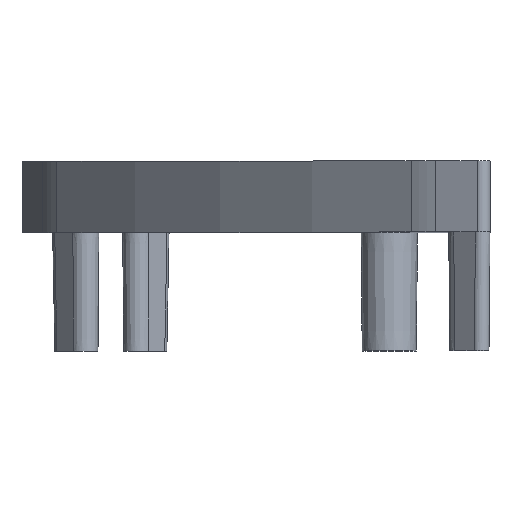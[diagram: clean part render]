
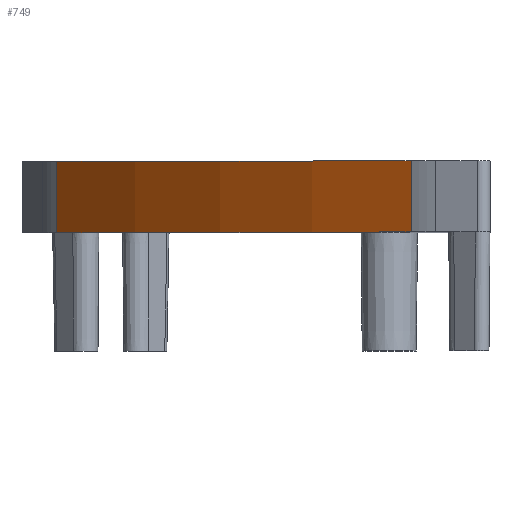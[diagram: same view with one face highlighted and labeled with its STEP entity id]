
A CAD part, top view. The second image highlights one B-rep face of the part: STEP entity #749.
In plain terms, the highlighted cylindrical face has radius 54 mm (diameter 108 mm), a partial arc.
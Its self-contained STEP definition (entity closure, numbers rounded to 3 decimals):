
#35=CIRCLE('',#821,54.);
#39=CIRCLE('',#827,54.);
#99=FACE_OUTER_BOUND('',#143,.T.);
#143=EDGE_LOOP('',(#649,#650,#651,#652));
#210=LINE('',#1258,#280);
#211=LINE('',#1262,#281);
#280=VECTOR('',#1030,2.4);
#281=VECTOR('',#1035,2.4);
#364=VERTEX_POINT('',#1241);
#365=VERTEX_POINT('',#1243);
#370=VERTEX_POINT('',#1256);
#371=VERTEX_POINT('',#1260);
#461=EDGE_CURVE('',#365,#364,#35,.T.);
#469=EDGE_CURVE('',#364,#370,#210,.T.);
#470=EDGE_CURVE('',#371,#370,#39,.T.);
#471=EDGE_CURVE('',#365,#371,#211,.T.);
#649=ORIENTED_EDGE('',*,*,#461,.T.);
#650=ORIENTED_EDGE('',*,*,#469,.T.);
#651=ORIENTED_EDGE('',*,*,#470,.F.);
#652=ORIENTED_EDGE('',*,*,#471,.F.);
#712=CYLINDRICAL_SURFACE('',#826,54.);
#749=ADVANCED_FACE('',(#99),#712,.T.);
#821=AXIS2_PLACEMENT_3D('',#1244,#1016,#1017);
#826=AXIS2_PLACEMENT_3D('',#1259,#1031,#1032);
#827=AXIS2_PLACEMENT_3D('',#1261,#1033,#1034);
#1016=DIRECTION('center_axis',(0.,1.,0.));
#1017=DIRECTION('ref_axis',(-0.809,0.,0.588));
#1030=DIRECTION('',(0.,1.,0.));
#1031=DIRECTION('center_axis',(0.,1.,0.));
#1032=DIRECTION('ref_axis',(-0.809,0.,0.588));
#1033=DIRECTION('center_axis',(0.,1.,0.));
#1034=DIRECTION('ref_axis',(-0.809,0.,0.588));
#1035=DIRECTION('',(0.,1.,0.));
#1241=CARTESIAN_POINT('',(-2.666,0.,14.627));
#1243=CARTESIAN_POINT('',(-14.627,0.,2.666));
#1244=CARTESIAN_POINT('Origin',(29.066,0.,-29.066));
#1256=CARTESIAN_POINT('',(-2.666,2.4,14.627));
#1258=CARTESIAN_POINT('',(-2.666,0.,14.627));
#1259=CARTESIAN_POINT('Origin',(29.066,0.,-29.066));
#1260=CARTESIAN_POINT('',(-14.627,2.4,2.666));
#1261=CARTESIAN_POINT('Origin',(29.066,2.4,-29.066));
#1262=CARTESIAN_POINT('',(-14.627,0.,2.666));
